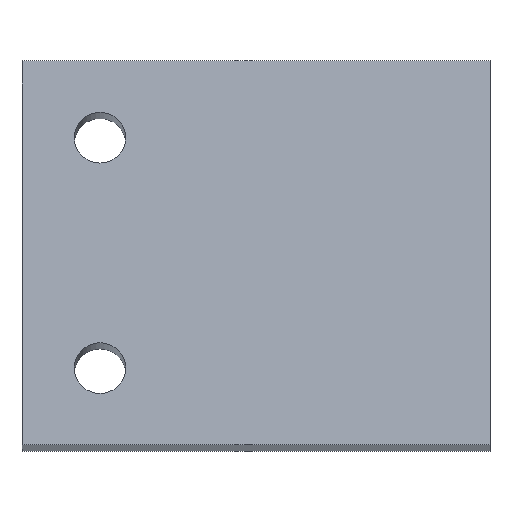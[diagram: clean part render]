
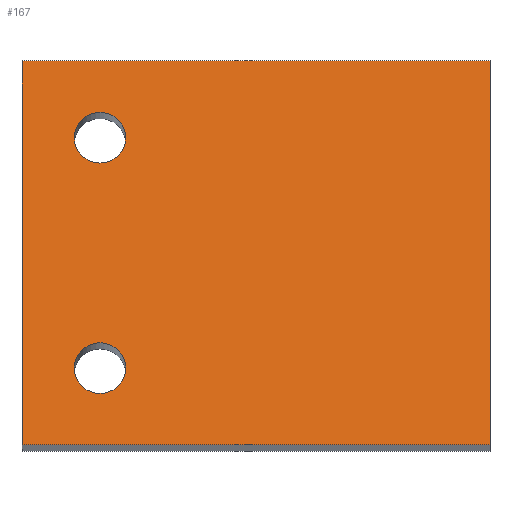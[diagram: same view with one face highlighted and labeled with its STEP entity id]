
A CAD part, top view. The second image highlights one B-rep face of the part: STEP entity #167.
In plain terms, the highlighted planar face has unit normal (0, 0.174, 0.985).
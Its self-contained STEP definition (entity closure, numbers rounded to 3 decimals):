
#89=CARTESIAN_POINT('',(-133.5,-501.46,551.754));
#90=VERTEX_POINT('',#89);
#97=CARTESIAN_POINT('',(-133.5,-550.7,560.436));
#98=VERTEX_POINT('',#97);
#99=CARTESIAN_POINT('',(-133.5,-501.46,551.754));
#100=DIRECTION('',(0.0,-0.985,0.174));
#101=VECTOR('',#100,1.);
#102=LINE('',#99,#101);
#103=EDGE_CURVE('',#90,#98,#102,.T.);
#115=CARTESIAN_POINT('',(-133.5,-501.46,551.754));
#116=DIRECTION('',(0.0,0.174,0.985));
#117=DIRECTION('',(-1.0,0.0,0.0));
#118=AXIS2_PLACEMENT_3D('',#115,#116,#117);
#119=PLANE('',#118);
#120=CARTESIAN_POINT('',(-193.5,-501.46,551.754));
#121=VERTEX_POINT('',#120);
#122=CARTESIAN_POINT('',(-133.5,-501.46,551.754));
#123=DIRECTION('',(-1.0,0.,0.));
#124=VECTOR('',#123,1.);
#125=LINE('',#122,#124);
#126=EDGE_CURVE('',#90,#121,#125,.T.);
#127=ORIENTED_EDGE('',*,*,#126,.T.);
#128=CARTESIAN_POINT('',(-193.5,-550.7,560.436));
#129=VERTEX_POINT('',#128);
#130=CARTESIAN_POINT('',(-193.5,-501.46,551.754));
#131=DIRECTION('',(0.0,-0.985,0.174));
#132=VECTOR('',#131,1.);
#133=LINE('',#130,#132);
#134=EDGE_CURVE('',#121,#129,#133,.T.);
#135=ORIENTED_EDGE('',*,*,#134,.T.);
#136=CARTESIAN_POINT('',(-133.5,-550.7,560.436));
#137=DIRECTION('',(-1.0,0.,0.));
#138=VECTOR('',#137,1.);
#139=LINE('',#136,#138);
#140=EDGE_CURVE('',#98,#129,#139,.T.);
#141=ORIENTED_EDGE('',*,*,#140,.F.);
#142=ORIENTED_EDGE('',*,*,#103,.F.);
#143=EDGE_LOOP('',(#127,#135,#141,#142));
#144=FACE_OUTER_BOUND('',#143,.T.);
#145=CARTESIAN_POINT('',(-180.2,-511.308,553.49));
#146=VERTEX_POINT('',#145);
#147=CARTESIAN_POINT('',(-183.5,-511.308,553.49));
#148=DIRECTION('',(0.0,0.174,0.985));
#149=DIRECTION('',(1.0,0.0,0.0));
#150=AXIS2_PLACEMENT_3D('',#147,#148,#149);
#151=CIRCLE('',#150,3.3);
#152=EDGE_CURVE('',#146,#146,#151,.T.);
#153=ORIENTED_EDGE('',*,*,#152,.F.);
#154=EDGE_LOOP('',(#153));
#155=FACE_BOUND('',#154,.T.);
#156=CARTESIAN_POINT('',(-180.2,-540.852,558.7));
#157=VERTEX_POINT('',#156);
#158=CARTESIAN_POINT('',(-183.5,-540.852,558.7));
#159=DIRECTION('',(0.0,0.174,0.985));
#160=DIRECTION('',(1.0,0.0,0.0));
#161=AXIS2_PLACEMENT_3D('',#158,#159,#160);
#162=CIRCLE('',#161,3.3);
#163=EDGE_CURVE('',#157,#157,#162,.T.);
#164=ORIENTED_EDGE('',*,*,#163,.F.);
#165=EDGE_LOOP('',(#164));
#166=FACE_BOUND('',#165,.T.);
#167=ADVANCED_FACE('',(#144,#155,#166),#119,.T.);
